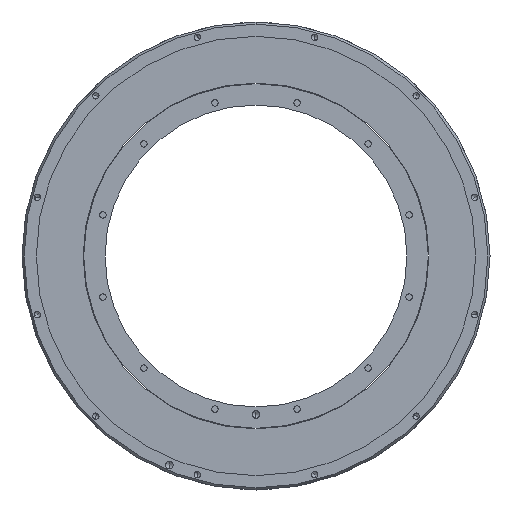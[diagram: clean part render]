
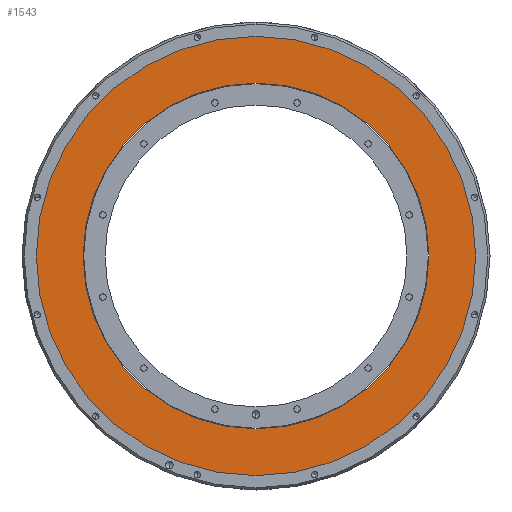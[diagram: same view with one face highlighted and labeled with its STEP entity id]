
A CAD part, front view. The second image highlights one B-rep face of the part: STEP entity #1543.
In plain terms, the highlighted planar face has unit normal (0, -1, 0).
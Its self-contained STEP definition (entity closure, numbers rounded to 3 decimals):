
#10 = AXIS2_PLACEMENT_3D ( 'NONE', #6553, #7146, #3117 ) ;
#31 = ORIENTED_EDGE ( 'NONE', *, *, #1757, .F. ) ;
#103 = CARTESIAN_POINT ( 'NONE',  ( 0., 1., 0. ) ) ;
#128 = ORIENTED_EDGE ( 'NONE', *, *, #5208, .F. ) ;
#571 = FACE_BOUND ( 'NONE', #2488, .T. ) ;
#627 = VERTEX_POINT ( 'NONE', #928 ) ;
#771 = VERTEX_POINT ( 'NONE', #6814 ) ;
#928 = CARTESIAN_POINT ( 'NONE',  ( 0., 1., 114.5 ) ) ;
#1372 = DIRECTION ( 'NONE',  ( 0., 0., -1. ) ) ;
#1464 = AXIS2_PLACEMENT_3D ( 'NONE', #1917, #4816, #1372 ) ;
#1543 = ADVANCED_FACE ( 'NONE', ( #5640, #571 ), #4234, .T. ) ;
#1661 = CARTESIAN_POINT ( 'NONE',  ( 0., 1., -114.5 ) ) ;
#1757 = EDGE_CURVE ( 'NONE', #7258, #627, #5903, .T. ) ;
#1917 = CARTESIAN_POINT ( 'NONE',  ( 0., 1., 0. ) ) ;
#2008 = DIRECTION ( 'NONE',  ( 0., -1., 0. ) ) ;
#2057 = AXIS2_PLACEMENT_3D ( 'NONE', #103, #4717, #2288 ) ;
#2288 = DIRECTION ( 'NONE',  ( 0., 0., -1. ) ) ;
#2488 = EDGE_LOOP ( 'NONE', ( #31, #128 ) ) ;
#2648 = EDGE_LOOP ( 'NONE', ( #2917, #4206 ) ) ;
#2791 = DIRECTION ( 'NONE',  ( 0., 0., -1. ) ) ;
#2917 = ORIENTED_EDGE ( 'NONE', *, *, #3126, .T. ) ;
#3117 = DIRECTION ( 'NONE',  ( 0., 0., -1. ) ) ;
#3126 = EDGE_CURVE ( 'NONE', #5605, #771, #5689, .T. ) ;
#3310 = CARTESIAN_POINT ( 'NONE',  ( 0., 1., 0. ) ) ;
#4206 = ORIENTED_EDGE ( 'NONE', *, *, #6502, .T. ) ;
#4234 = PLANE ( 'NONE',  #10 ) ;
#4475 = CARTESIAN_POINT ( 'NONE',  ( 0., 1., -145.5 ) ) ;
#4511 = DIRECTION ( 'NONE',  ( 0., -1., 0. ) ) ;
#4717 = DIRECTION ( 'NONE',  ( 0., -1., 0. ) ) ;
#4816 = DIRECTION ( 'NONE',  ( 0., -1., 0. ) ) ;
#5143 = AXIS2_PLACEMENT_3D ( 'NONE', #3310, #4511, #2791 ) ;
#5184 = CIRCLE ( 'NONE', #1464, 114.5 ) ;
#5208 = EDGE_CURVE ( 'NONE', #627, #7258, #5184, .T. ) ;
#5440 = AXIS2_PLACEMENT_3D ( 'NONE', #5452, #2008, #6643 ) ;
#5452 = CARTESIAN_POINT ( 'NONE',  ( 0., 1., 0. ) ) ;
#5605 = VERTEX_POINT ( 'NONE', #4475 ) ;
#5640 = FACE_OUTER_BOUND ( 'NONE', #2648, .T. ) ;
#5689 = CIRCLE ( 'NONE', #5143, 145.5 ) ;
#5903 = CIRCLE ( 'NONE', #2057, 114.5 ) ;
#6502 = EDGE_CURVE ( 'NONE', #771, #5605, #6701, .T. ) ;
#6553 = CARTESIAN_POINT ( 'NONE',  ( 114.5, 1., 0. ) ) ;
#6643 = DIRECTION ( 'NONE',  ( 0., 0., -1. ) ) ;
#6701 = CIRCLE ( 'NONE', #5440, 145.5 ) ;
#6814 = CARTESIAN_POINT ( 'NONE',  ( 0., 1., 145.5 ) ) ;
#7146 = DIRECTION ( 'NONE',  ( 0., -1., 0. ) ) ;
#7258 = VERTEX_POINT ( 'NONE', #1661 ) ;
